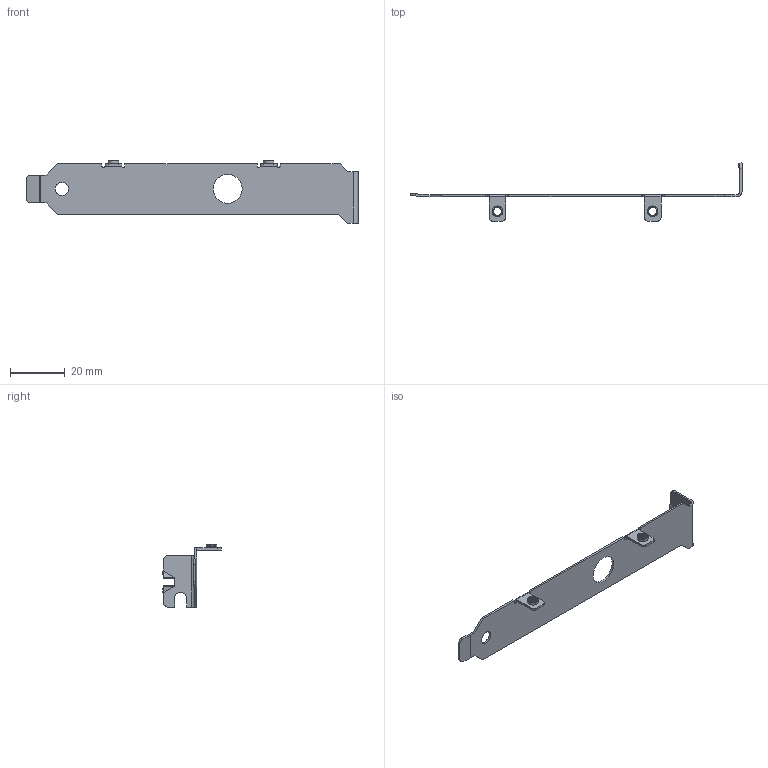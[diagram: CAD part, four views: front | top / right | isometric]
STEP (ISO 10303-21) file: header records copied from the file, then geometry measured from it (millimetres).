
FILE_DESCRIPTION(('FreeCAD Model'),'2;1');
FILE_NAME('Open CASCADE Shape Model','2021-03-26T21:22:36',(''),(''), 'Open CASCADE STEP processor 7.5','FreeCAD','Unknown');
FILE_SCHEMA(('AUTOMOTIVE_DESIGN { 1 0 10303 214 1 1 1 1 }'));
Length unit declared in the file: millimetre
Products named in the file (1): Cut
Bounding box: 120.87 x 21.21 x 22.71 mm (x, y, z)
Volume: 1808.5 mm3; surface area: 4955.3 mm2
Topology: 1 solids, 1 shells, 116 faces, 300 edges, 188 vertices
Faces by surface type: plane 63, cylinder 49, bspline 4
Full cylindrical faces by diameter (mm): 10.5 x1
Entity records: 14528 total; most frequent: CARTESIAN_POINT 8281, DIRECTION 858, ORIENTED_EDGE 600, PCURVE 600, DEFINITIONAL_REPRESENTATION 600, LINE 470, VECTOR 470, EDGE_CURVE 300
